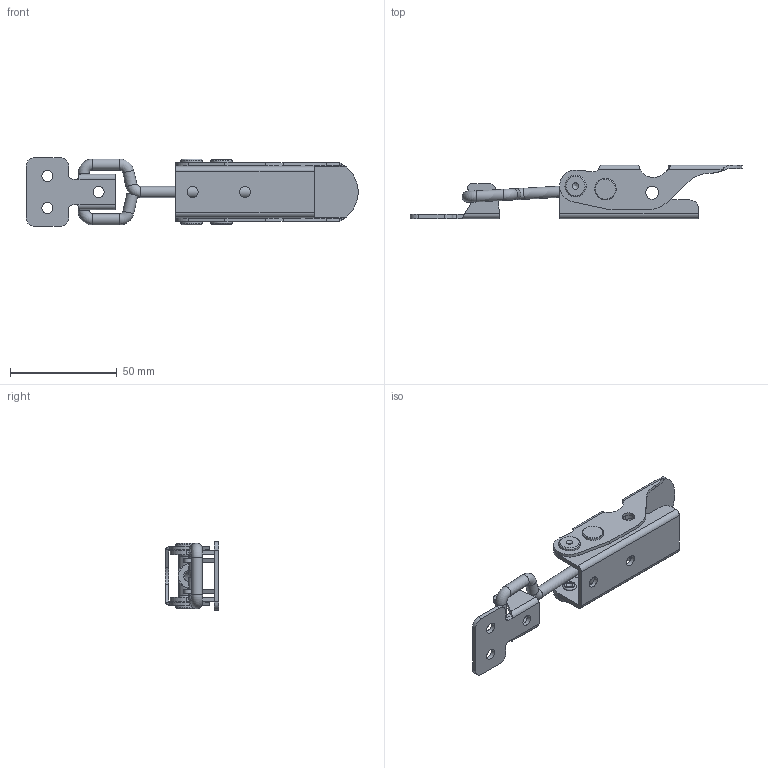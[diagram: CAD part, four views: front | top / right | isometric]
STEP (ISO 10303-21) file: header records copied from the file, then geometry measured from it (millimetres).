
FILE_DESCRIPTION(/* description */ ('STEP AP214'),/* implementation_level */ '2;1');
FILE_NAME(/* name */ 'Toggle Latch_ Steel GN 761-200-G-ST (closed-0)',/* time_stamp */ '2023-09-14T10:27:37+02:00',/* author */ ('License CC BY-ND 4.0'),/* organization */ ('CADENAS'),/* preprocessor_version */ 'ST-DEVELOPER v19.3',/* originating_system */ 'PARTsolutions',/* authorisation */ ' ');
FILE_SCHEMA (('AUTOMOTIVE_DESIGN {1 0 10303 214 3 1 1}'));
Length unit declared in the file: millimetre
Products named in the file (6): Toggle Latch, Steel GN 761-200-G-ST (closed-0); Toggle Latch GN 761-200-G-ST-3; Toggle Latch GN 761-200-G-ST (0)-6; Toggle Latch GN 761-200-G-ST (0-0)-4; Toggle Latch GN 761-200-G-ST (0)-2; Toggle Latch GN 761-200-G-ST-1
Assembly tree (5 placements, depth 2):
  Toggle Latch, Steel GN 761-200-G-ST (closed-0)
    Toggle Latch GN 761-200-G-ST-3
    Toggle Latch GN 761-200-G-ST (0)-6
    Toggle Latch GN 761-200-G-ST (0-0)-4
    Toggle Latch GN 761-200-G-ST (0)-2
    Toggle Latch GN 761-200-G-ST-1
Bounding box: 155.45 x 24.98 x 32 mm (x, y, z)
Volume: 18781.9 mm3; surface area: 20646.8 mm2
Topology: 5 solids, 5 shells, 241 faces, 638 edges, 416 vertices
Faces by surface type: cylinder 106, plane 101, cone 25, torus 9
Full cylindrical faces by diameter (mm): 1 x2, 4.917 x2, 5 x2, 5.05 x2, 5.2 x11, 6 x3, 6.34 x2, 6.5 x4, 10 x5
Entity records: 7360 total; most frequent: CARTESIAN_POINT 1407, DIRECTION 1237, ORIENTED_EDGE 1116, EDGE_CURVE 558, AXIS2_PLACEMENT_3D 478, VERTEX_POINT 398, FACE_BOUND 346, EDGE_LOOP 342
